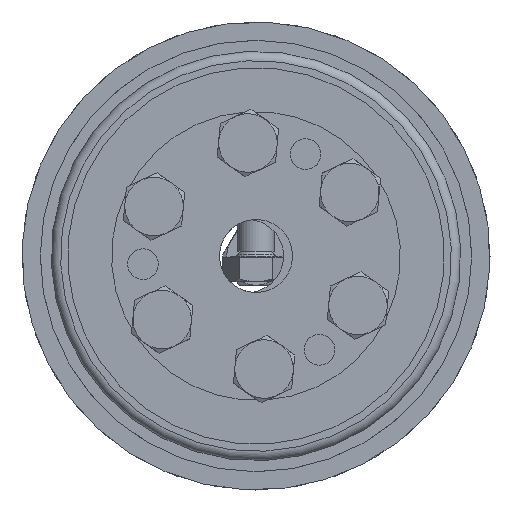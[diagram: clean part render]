
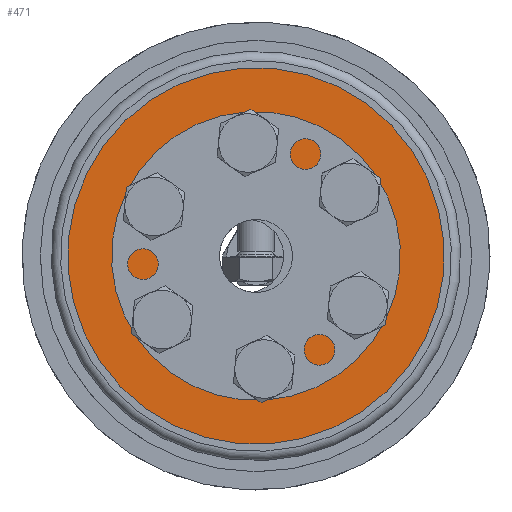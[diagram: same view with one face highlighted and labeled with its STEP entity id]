
A CAD part, left-side view. The second image highlights one B-rep face of the part: STEP entity #471.
In plain terms, the highlighted planar face has unit normal (-1, 0, 0).
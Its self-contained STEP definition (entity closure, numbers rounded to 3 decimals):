
#471 = ADVANCED_FACE( 'NONE', ( #818, #819, #820, #821, #822, #823, #824, #825 ), #826, .F. );
#818 = FACE_OUTER_BOUND( '', #1457, .T. );
#819 = FACE_BOUND( '', #1458, .T. );
#820 = FACE_BOUND( '', #1459, .T. );
#821 = FACE_BOUND( '', #1460, .T. );
#822 = FACE_BOUND( '', #1461, .T. );
#823 = FACE_BOUND( '', #1462, .T. );
#824 = FACE_BOUND( '', #1463, .T. );
#825 = FACE_BOUND( '', #1464, .T. );
#826 = PLANE( '', #1465 );
#1457 = EDGE_LOOP( '', ( #2227 ) );
#1458 = EDGE_LOOP( '', ( #2228 ) );
#1459 = EDGE_LOOP( '', ( #2229 ) );
#1460 = EDGE_LOOP( '', ( #2230 ) );
#1461 = EDGE_LOOP( '', ( #2231 ) );
#1462 = EDGE_LOOP( '', ( #2232 ) );
#1463 = EDGE_LOOP( '', ( #2233 ) );
#1464 = EDGE_LOOP( '', ( #2234 ) );
#1465 = AXIS2_PLACEMENT_3D( '', #2235, #2236, #2237 );
#2227 = ORIENTED_EDGE( '', *, *, #3621, .T. );
#2228 = ORIENTED_EDGE( '', *, *, #3622, .F. );
#2229 = ORIENTED_EDGE( '', *, *, #3611, .F. );
#2230 = ORIENTED_EDGE( '', *, *, #3623, .F. );
#2231 = ORIENTED_EDGE( '', *, *, #3624, .F. );
#2232 = ORIENTED_EDGE( '', *, *, #3625, .F. );
#2233 = ORIENTED_EDGE( '', *, *, #3626, .F. );
#2234 = ORIENTED_EDGE( '', *, *, #3627, .F. );
#2235 = CARTESIAN_POINT( '', ( 0., 12.2, 0. ) );
#2236 = DIRECTION( '', ( 1., 0., 0. ) );
#2237 = DIRECTION( '', ( 0., 1., 0. ) );
#3611 = EDGE_CURVE( 'NONE', #3976, #3976, #3977, .T. );
#3621 = EDGE_CURVE( 'NONE', #3996, #3996, #3997, .T. );
#3622 = EDGE_CURVE( 'NONE', #3998, #3998, #3999, .T. );
#3623 = EDGE_CURVE( 'NONE', #4000, #4000, #4001, .T. );
#3624 = EDGE_CURVE( 'NONE', #4002, #4002, #4003, .T. );
#3625 = EDGE_CURVE( 'NONE', #4004, #4004, #4005, .T. );
#3626 = EDGE_CURVE( 'NONE', #4006, #4006, #4007, .T. );
#3627 = EDGE_CURVE( 'NONE', #4008, #4008, #4009, .T. );
#3976 = VERTEX_POINT( '', #4582 );
#3977 = CIRCLE( '', #4583, 2.1 );
#3996 = VERTEX_POINT( '', #4602 );
#3997 = CIRCLE( '', #4603, 25.75 );
#3998 = VERTEX_POINT( '', #4604 );
#3999 = CIRCLE( '', #4605, 2.1 );
#4000 = VERTEX_POINT( '', #4606 );
#4001 = CIRCLE( '', #4607, 2.1 );
#4002 = VERTEX_POINT( '', #4608 );
#4003 = CIRCLE( '', #4609, 2.1 );
#4004 = VERTEX_POINT( '', #4610 );
#4005 = CIRCLE( '', #4611, 12.2 );
#4006 = VERTEX_POINT( '', #4612 );
#4007 = CIRCLE( '', #4613, 2.1 );
#4008 = VERTEX_POINT( '', #4614 );
#4009 = CIRCLE( '', #4615, 2.1 );
#4582 = CARTESIAN_POINT( '', ( 0., -7.75, -11.323 ) );
#4583 = AXIS2_PLACEMENT_3D( '', #5271, #5272, #5273 );
#4602 = CARTESIAN_POINT( '', ( 0., 0., 25.75 ) );
#4603 = AXIS2_PLACEMENT_3D( '', #5301, #5302, #5303 );
#4604 = CARTESIAN_POINT( '', ( 0., -7.75, 15.523 ) );
#4605 = AXIS2_PLACEMENT_3D( '', #5304, #5305, #5306 );
#4606 = CARTESIAN_POINT( '', ( 0., 7.75, -11.323 ) );
#4607 = AXIS2_PLACEMENT_3D( '', #5307, #5308, #5309 );
#4608 = CARTESIAN_POINT( '', ( 0., 15.5, 2.1 ) );
#4609 = AXIS2_PLACEMENT_3D( '', #5310, #5311, #5312 );
#4610 = CARTESIAN_POINT( '', ( 0., 0., 12.2 ) );
#4611 = AXIS2_PLACEMENT_3D( '', #5313, #5314, #5315 );
#4612 = CARTESIAN_POINT( '', ( 0., -15.5, 2.1 ) );
#4613 = AXIS2_PLACEMENT_3D( '', #5316, #5317, #5318 );
#4614 = CARTESIAN_POINT( '', ( 0., 7.75, 15.523 ) );
#4615 = AXIS2_PLACEMENT_3D( '', #5319, #5320, #5321 );
#5271 = CARTESIAN_POINT( '', ( 0., -7.75, -13.423 ) );
#5272 = DIRECTION( '', ( -1., 0., 0. ) );
#5273 = DIRECTION( '', ( 0., 0., 1. ) );
#5301 = CARTESIAN_POINT( '', ( 0., 0., 0. ) );
#5302 = DIRECTION( '', ( -1., 0., 0. ) );
#5303 = DIRECTION( '', ( 0., 0., 1. ) );
#5304 = CARTESIAN_POINT( '', ( 0., -7.75, 13.423 ) );
#5305 = DIRECTION( '', ( -1., 0., 0. ) );
#5306 = DIRECTION( '', ( 0., 0., 1. ) );
#5307 = CARTESIAN_POINT( '', ( 0., 7.75, -13.423 ) );
#5308 = DIRECTION( '', ( -1., 0., 0. ) );
#5309 = DIRECTION( '', ( 0., 0., 1. ) );
#5310 = CARTESIAN_POINT( '', ( 0., 15.5, 0. ) );
#5311 = DIRECTION( '', ( -1., 0., 0. ) );
#5312 = DIRECTION( '', ( 0., 0., 1. ) );
#5313 = CARTESIAN_POINT( '', ( 0., 0., 0. ) );
#5314 = DIRECTION( '', ( -1., 0., 0. ) );
#5315 = DIRECTION( '', ( 0., 0., 1. ) );
#5316 = CARTESIAN_POINT( '', ( 0., -15.5, 0. ) );
#5317 = DIRECTION( '', ( -1., 0., 0. ) );
#5318 = DIRECTION( '', ( 0., 0., 1. ) );
#5319 = CARTESIAN_POINT( '', ( 0., 7.75, 13.423 ) );
#5320 = DIRECTION( '', ( -1., 0., 0. ) );
#5321 = DIRECTION( '', ( 0., 0., 1. ) );
